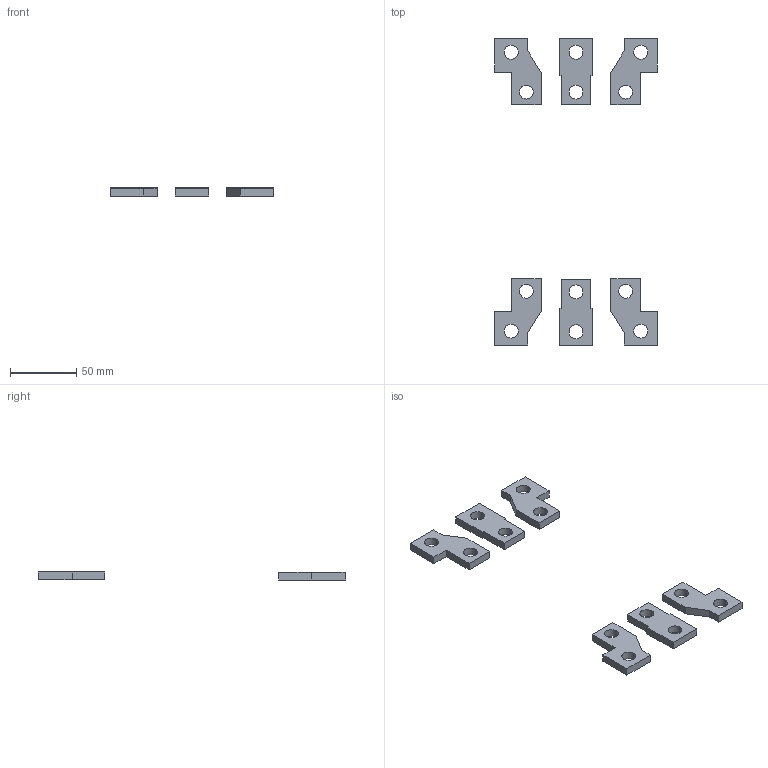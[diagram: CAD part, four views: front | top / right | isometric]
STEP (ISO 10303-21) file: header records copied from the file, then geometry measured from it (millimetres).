
FILE_DESCRIPTION (( 'STEP AP214' ), '1' );
FILE_NAME ('Êîìïëåêò âûâîäîâ ðàñøèðèòåëüíûõ ÂÀ04-36ÂÀ51-35ÂÀ57-35-ÓÕË3 200 À, 250 À.STEP', '2023-07-24T12:40:20', ( '' ), ( '' ), 'SwSTEP 2.0', 'SolidWorks 2018', '' );
FILE_SCHEMA (( 'AUTOMOTIVE_DESIGN' ));
Length unit declared in the file: millimetre
Products named in the file (1): Êîìïëåêò âûâîäîâ ðàñøèðèòåëüíûõ ÂÀ04-36ÂÀ51-35ÂÀ57-35-ÓÕË3 200 À, 250 À
Bounding box: 122.68 x 231.55 x 6.06 mm (x, y, z)
Volume: 38129.5 mm3; surface area: 20793.7 mm2
Topology: 6 solids, 6 shells, 84 faces, 216 edges, 144 vertices
Faces by surface type: plane 60, cylinder 24
Entity records: 3599 total; most frequent: CARTESIAN_POINT 445, DIRECTION 434, ORIENTED_EDGE 432, EDGE_CURVE 216, VECTOR 168, LINE 168, VERTEX_POINT 144, AXIS2_PLACEMENT_3D 133
